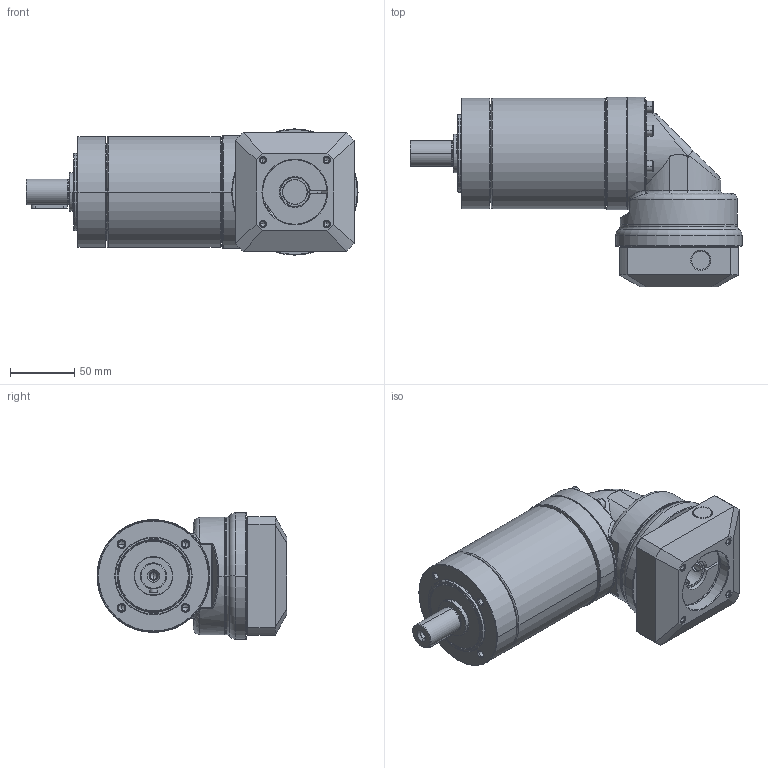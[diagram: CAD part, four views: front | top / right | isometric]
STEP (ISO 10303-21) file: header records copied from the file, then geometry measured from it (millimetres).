
FILE_DESCRIPTION((''),'2;1');
FILE_NAME('PG2R-080_3ST_19-P0411400101_ASM','2016-04-27T',('d01943'),(''),'PRO/ENGINEER BY PARAMETRIC TECHNOLOGY CORPORATION, 2008410','PRO/ENGINEER BY PARAMETRIC TECHNOLOGY CORPORATION, 2008410','');
FILE_SCHEMA(('CONFIG_CONTROL_DESIGN'));
Length unit declared in the file: millimetre
Products named in the file (12): P1325310001; P0273300001; P0350301103; P1349300001; P1017300001; P0713301001; P0503400008; P1350300101; P0411400101; P1702500001; 2111BA05025; PG2R-080_3ST_19-P0411400101_ASM
Assembly tree (16 placements, depth 2):
  PG2R-080_3ST_19-P0411400101_ASM
    P1325310001
    P0273300001
    P0350301103
    P1349300001
    P1017300001
    P0713301001
    P0503400008
    P1350300101
    P0411400101
    P1702500001
    2111BA05025  x6
Bounding box: 257.5 x 147.25 x 98 mm (x, y, z)
Volume: 924793 mm3; surface area: 226878.1 mm2
Topology: 16 solids, 17 shells, 786 faces, 1716 edges, 996 vertices
Faces by surface type: cylinder 246, cone 216, plane 192, torus 100, bspline 32
Entity records: 22959 total; most frequent: CARTESIAN_POINT 8991, DIRECTION 3121, ORIENTED_EDGE 2680, EDGE_CURVE 1340, AXIS2_PLACEMENT_3D 1320, VERTEX_POINT 796, EDGE_LOOP 706, CIRCLE 703
